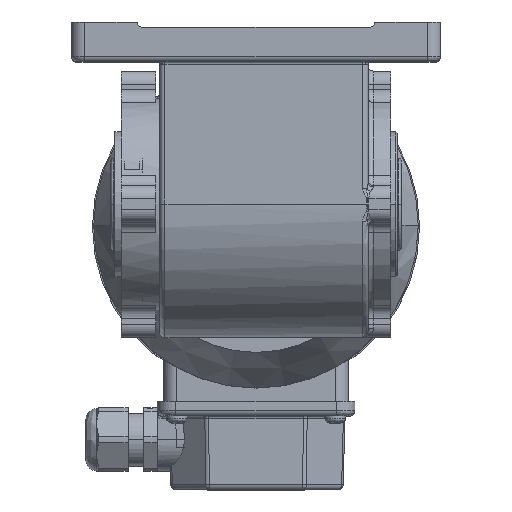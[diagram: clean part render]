
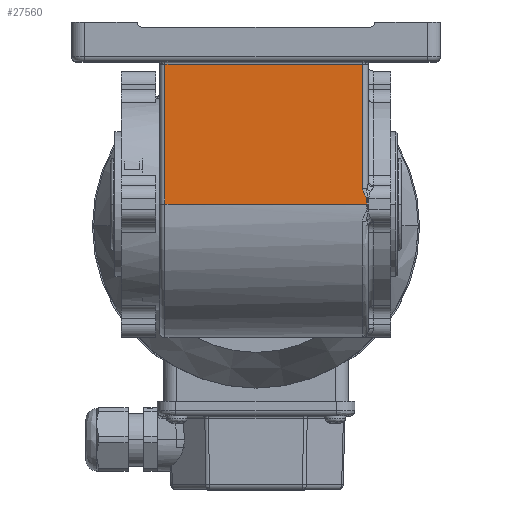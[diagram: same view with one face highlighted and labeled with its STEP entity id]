
A CAD part, top view. The second image highlights one B-rep face of the part: STEP entity #27560.
In plain terms, the highlighted planar face has unit normal (0, 0, 1).
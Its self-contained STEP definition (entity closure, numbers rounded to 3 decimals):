
#65 = CARTESIAN_POINT ( 'NONE',  ( -34.5, 61., 88. ) ) ;
#218 = CARTESIAN_POINT ( 'NONE',  ( -34.5, 61., 88. ) ) ;
#583 = LINE ( 'NONE', #6207, #16898 ) ;
#839 = VERTEX_POINT ( 'NONE', #31588 ) ;
#1666 = CARTESIAN_POINT ( 'NONE',  ( 41.928, 8., 88. ) ) ;
#2403 = CARTESIAN_POINT ( 'NONE',  ( 40.89, 12.223, 88. ) ) ;
#2749 = CARTESIAN_POINT ( 'NONE',  ( 40.5, 13.758, 88. ) ) ;
#4300 = LINE ( 'NONE', #9937, #5216 ) ;
#4672 = VERTEX_POINT ( 'NONE', #19675 ) ;
#5009 = VERTEX_POINT ( 'NONE', #20804 ) ;
#5216 = VECTOR ( 'NONE', #7474, 1000. ) ;
#5416 = CARTESIAN_POINT ( 'NONE',  ( 40.568, 13.231, 88. ) ) ;
#5740 = CARTESIAN_POINT ( 'NONE',  ( 40.5, 13.936, 88. ) ) ;
#5856 = CARTESIAN_POINT ( 'NONE',  ( 42.5, 8., 88. ) ) ;
#6207 = CARTESIAN_POINT ( 'NONE',  ( 40.5, 61., 88. ) ) ;
#6375 = DIRECTION ( 'NONE',  ( -1., 0., 0. ) ) ;
#6718 = ORIENTED_EDGE ( 'NONE', *, *, #26607, .T. ) ;
#7206 = VERTEX_POINT ( 'NONE', #1666 ) ;
#7474 = DIRECTION ( 'NONE',  ( -1., 0., 0. ) ) ;
#7722 = CARTESIAN_POINT ( 'NONE',  ( 41.646, 10.826, 88. ) ) ;
#7983 = DIRECTION ( 'NONE',  ( 0., -1., 0. ) ) ;
#8561 = EDGE_CURVE ( 'NONE', #16435, #15099, #4300, .T. ) ;
#9007 = CARTESIAN_POINT ( 'NONE',  ( 40.5, 61., 88. ) ) ;
#9106 = VECTOR ( 'NONE', #6375, 1000. ) ;
#9491 = CARTESIAN_POINT ( 'NONE',  ( 42.5, 61., 88. ) ) ;
#9664 = DIRECTION ( 'NONE',  ( 0., 1., 0. ) ) ;
#9937 = CARTESIAN_POINT ( 'NONE',  ( 42.5, 61., 88. ) ) ;
#10525 = CARTESIAN_POINT ( 'NONE',  ( 41.839, 10.429, 88. ) ) ;
#11175 = EDGE_CURVE ( 'NONE', #839, #5009, #27803, .T. ) ;
#11705 = EDGE_CURVE ( 'NONE', #7206, #839, #20254, .T. ) ;
#12285 = PLANE ( 'NONE',  #17583 ) ;
#15099 = VERTEX_POINT ( 'NONE', #65 ) ;
#15776 = CARTESIAN_POINT ( 'NONE',  ( 41.204, 11.591, 88. ) ) ;
#16130 = CARTESIAN_POINT ( 'NONE',  ( 40.515, 13.58, 88. ) ) ;
#16435 = VERTEX_POINT ( 'NONE', #9007 ) ;
#16763 = LINE ( 'NONE', #5856, #9106 ) ;
#16898 = VECTOR ( 'NONE', #30021, 1000. ) ;
#17583 = AXIS2_PLACEMENT_3D ( 'NONE', #9491, #22487, #9664 ) ;
#18189 = VECTOR ( 'NONE', #27881, 1000. ) ;
#18583 = CARTESIAN_POINT ( 'NONE',  ( 40.607, 13.059, 88. ) ) ;
#19675 = CARTESIAN_POINT ( 'NONE',  ( -34.5, 8., 88. ) ) ;
#19741 = ORIENTED_EDGE ( 'NONE', *, *, #23868, .T. ) ;
#20254 = LINE ( 'NONE', #22891, #18189 ) ;
#20804 = CARTESIAN_POINT ( 'NONE',  ( 40.5, 13.936, 88. ) ) ;
#21403 = CARTESIAN_POINT ( 'NONE',  ( 41.928, 10.089, 88. ) ) ;
#21584 = CARTESIAN_POINT ( 'NONE',  ( 41.384, 11.287, 88. ) ) ;
#22404 = ORIENTED_EDGE ( 'NONE', *, *, #11175, .T. ) ;
#22487 = DIRECTION ( 'NONE',  ( 0., 0., -1. ) ) ;
#22891 = CARTESIAN_POINT ( 'NONE',  ( 41.928, 61., 88. ) ) ;
#23445 = VECTOR ( 'NONE', #7983, 1000. ) ;
#23868 = EDGE_CURVE ( 'NONE', #15099, #4672, #26960, .T. ) ;
#24638 = ORIENTED_EDGE ( 'NONE', *, *, #11705, .T. ) ;
#26003 = ORIENTED_EDGE ( 'NONE', *, *, #27197, .F. ) ;
#26525 = CARTESIAN_POINT ( 'NONE',  ( 41.87, 10.347, 88. ) ) ;
#26607 = EDGE_CURVE ( 'NONE', #5009, #16435, #583, .T. ) ;
#26960 = LINE ( 'NONE', #218, #23445 ) ;
#27197 = EDGE_CURVE ( 'NONE', #7206, #4672, #16763, .T. ) ;
#27560 = ADVANCED_FACE ( 'NONE', ( #33823 ), #12285, .F. ) ;
#27803 = B_SPLINE_CURVE_WITH_KNOTS ( 'NONE', 3,
 ( #32040, #21403, #29550, #26525, #10525, #31874, #7722, #21584, #15776, #2403, #34687, #18583, #5416, #16130, #2749, #5740 ),
 .UNSPECIFIED., .F., .F.,
 ( 4, 2, 2, 2, 2, 2, 2, 4 ),
 ( 0., 0., 0.001, 0.001, 0.002, 0.003, 0.004, 0.004 ),
 .UNSPECIFIED. ) ;
#27881 = DIRECTION ( 'NONE',  ( 0., 1., 0. ) ) ;
#29550 = CARTESIAN_POINT ( 'NONE',  ( 41.915, 10.178, 88. ) ) ;
#29626 = ORIENTED_EDGE ( 'NONE', *, *, #8561, .T. ) ;
#30021 = DIRECTION ( 'NONE',  ( 0., 1., 0. ) ) ;
#31588 = CARTESIAN_POINT ( 'NONE',  ( 41.928, 10., 88. ) ) ;
#31874 = CARTESIAN_POINT ( 'NONE',  ( 41.732, 10.671, 88. ) ) ;
#32040 = CARTESIAN_POINT ( 'NONE',  ( 41.928, 10., 88. ) ) ;
#33453 = EDGE_LOOP ( 'NONE', ( #22404, #6718, #29626, #19741, #26003, #24638 ) ) ;
#33823 = FACE_OUTER_BOUND ( 'NONE', #33453, .T. ) ;
#34687 = CARTESIAN_POINT ( 'NONE',  ( 40.753, 12.552, 88. ) ) ;
